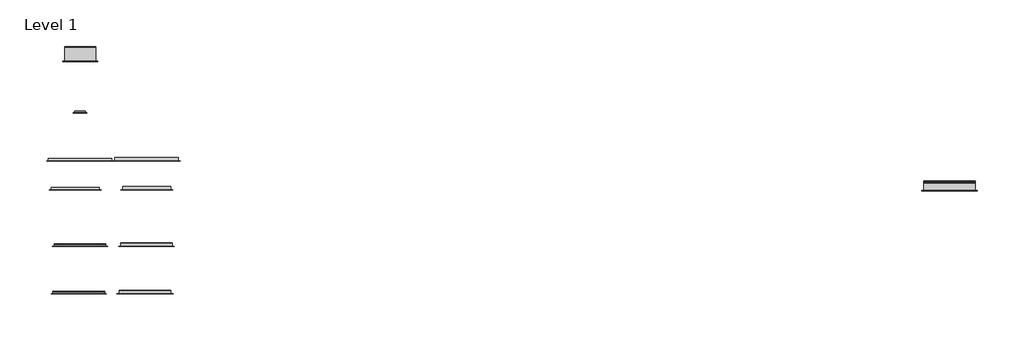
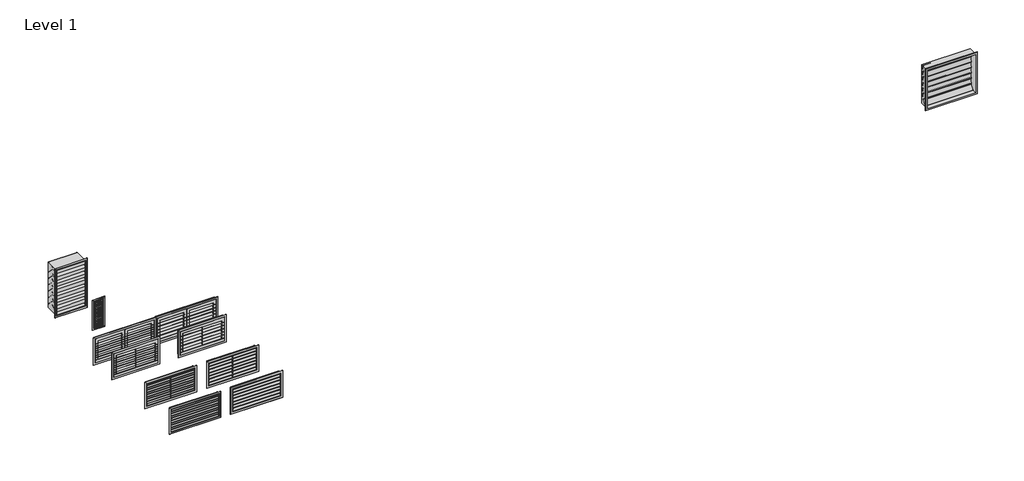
# One storey: 10 air terminals, 1 damper.
"""IFC4 building model written with IfcOpenShell, lengths in millimetres."""

from ifc_helpers import new_model, si_unit, origin, place, context, project, spatial, transform, mapped, element, save
from components import air_terminal_f59a3cf8, ba_50_fd4936a4, ba_70_810faa98, bdd_50_f3f2ff56, bdd_70_adf86e9b, bde_50_40d87701, bde_70_a498eccb, bv_50_3e811bb8, bv_70_c8e80291, dva_30_cbf1cae8, zk_2_b9b7aa7c

model = new_model("IFC4")

# Units and contexts
model_context = context("Model", 3, world=origin())
ifc_project = project(units=[si_unit("LENGTHUNIT", "METRE", prefix="MILLI")], contexts=[model_context])

# Site, building, storey
site = spatial("IfcSite", under=ifc_project)
building = spatial("IfcBuilding", under=site)
storey = spatial("IfcBuildingStorey", under=building, Name="Level 1", Elevation=-6.7670201)

# Air terminals
placement = place(None, origin())
air_terminal_shape = air_terminal_f59a3cf8(model_context)
element("IfcAirTerminal", 1, ObjectType="AIR_FB_Sound-damping outdoor grille GDBV-140 45_SMA : GDBV-140/45", at=placement, inside=storey, context=model_context, shape_type="MappedRepresentation", body=[
    mapped(air_terminal_shape, transform((-2773.0301693, -10521.2580142, 250.0), x_axis=(1.0, 0.0, 0.0), y_axis=(0.0, 0.0, 1.0), z_axis=(0.0, -1.0, 0.0))),
])
ba_50_shape = ba_50_fd4936a4(model_context)
element("IfcAirTerminal", 2, ObjectType="AIR_FB_Outside air grille BA_SMA : BA-50", at=placement, inside=storey, context=model_context, shape_type="MappedRepresentation", body=[
    mapped(ba_50_shape, transform((-2799.4824084, -15038.5026996, 250.0), x_axis=(1.0, 0.0, 0.0), y_axis=(0.0, 0.0, 1.0), z_axis=(0.0, -1.0, 0.0))),
])
ba_70_shape = ba_70_810faa98(model_context)
element("IfcAirTerminal", 3, ObjectType="AIR_FB_Outside air grille BA_SMA : BA-70", at=placement, inside=storey, context=model_context, shape_type="MappedRepresentation", body=[
    mapped(ba_70_shape, transform((-1514.3900909, -15038.5026996, 250.0), x_axis=(1.0, 0.0, 0.0), y_axis=(0.0, 0.0, 1.0), z_axis=(0.0, -1.0, 0.0))),
])
bdd_50_shape = bdd_50_f3f2ff56(model_context)
element("IfcAirTerminal", 4, ObjectType="AIR_FB_Steel lattice doors BDD_SMA : BDD-50", at=placement, inside=storey, context=model_context, shape_type="MappedRepresentation", body=[
    mapped(bdd_50_shape, transform((-2773.0301693, -12456.9189375, 250.0), x_axis=(1.0, 0.0, 0.0), y_axis=(0.0, 0.0, 1.0), z_axis=(0.0, -1.0, 0.0))),
])
bdd_70_shape = bdd_70_adf86e9b(model_context)
element("IfcAirTerminal", 5, ObjectType="AIR_FB_Steel lattice doors BDD_SMA : BDD-70", at=placement, inside=storey, context=model_context, shape_type="MappedRepresentation", body=[
    mapped(bdd_70_shape, transform((-1481.6546232, -12456.9189375, 250.0), x_axis=(1.0, 0.0, 0.0), y_axis=(0.0, 0.0, 1.0), z_axis=(0.0, -1.0, 0.0))),
])
bde_50_shape = bde_50_40d87701(model_context)
element("IfcAirTerminal", 6, ObjectType="AIR_FB_Steel lattice doors BDE_SMA : BDE-50", at=placement, inside=storey, context=model_context, shape_type="MappedRepresentation", body=[
    mapped(bde_50_shape, transform((-2867.5747333, -13021.2580142, 250.0), x_axis=(1.0, 0.0, 0.0), y_axis=(0.0, 0.0, 1.0), z_axis=(0.0, -1.0, 0.0))),
])
bde_70_shape = bde_70_a498eccb(model_context)
element("IfcAirTerminal", 7, ObjectType="AIR_FB_Steel lattice doors BDE_SMA : BDE-70", at=placement, inside=storey, context=model_context, shape_type="MappedRepresentation", body=[
    mapped(bde_70_shape, transform((-1481.6546232, -13021.2580142, 250.0), x_axis=(1.0, 0.0, 0.0), y_axis=(0.0, 0.0, 1.0), z_axis=(0.0, -1.0, 0.0))),
])
bv_50_shape = bv_50_3e811bb8(model_context)
element("IfcAirTerminal", 8, ObjectType="AIR_FB_Outside air grille BV_SMA : BV-50", at=placement, inside=storey, context=model_context, shape_type="MappedRepresentation", body=[
    mapped(bv_50_shape, transform((-2773.0301693, -14121.2580142, 250.0), x_axis=(1.0, 0.0, 0.0), y_axis=(0.0, 0.0, 1.0), z_axis=(0.0, -1.0, 0.0))),
])
bv_70_shape = bv_70_c8e80291(model_context)
element("IfcAirTerminal", 9, ObjectType="AIR_FB_Outside air grille BV_SMA : BV-70", at=placement, inside=storey, context=model_context, shape_type="MappedRepresentation", body=[
    mapped(bv_70_shape, transform((-1481.6546232, -14121.2580142, 250.0), x_axis=(1.0, 0.0, 0.0), y_axis=(0.0, 0.0, 1.0), z_axis=(0.0, -1.0, 0.0))),
])
dva_30_shape = dva_30_cbf1cae8(model_context)
element("IfcAirTerminal", 10, ObjectType="AIR_FB_Pierce-proof grille DVA-30_SMA : DVA-30", at=placement, inside=storey, context=model_context, shape_type="MappedRepresentation", body=[
    mapped(dva_30_shape, transform((-2773.0301693, -11521.2580142, 300.0), x_axis=(1.0, 0.0, 0.0), y_axis=(0.0, 0.0, 1.0), z_axis=(0.0, -1.0, 0.0))),
])

# Damper
zk_2_shape = zk_2_b9b7aa7c(model_context)
element("IfcDamper", 11, ObjectType="AIR_FB_Self-closing valves ZK-2_SMA : ZK-2", at=placement, inside=storey, context=model_context, shape_type="MappedRepresentation", body=[
    mapped(zk_2_shape, transform((14114.2205171, -13032.6406022, 420.0), x_axis=(1.0, 0.0, 0.0), y_axis=(0.0, 0.0, 1.0), z_axis=(0.0, -1.0, 0.0))),
])

save(model, "model.ifc")
